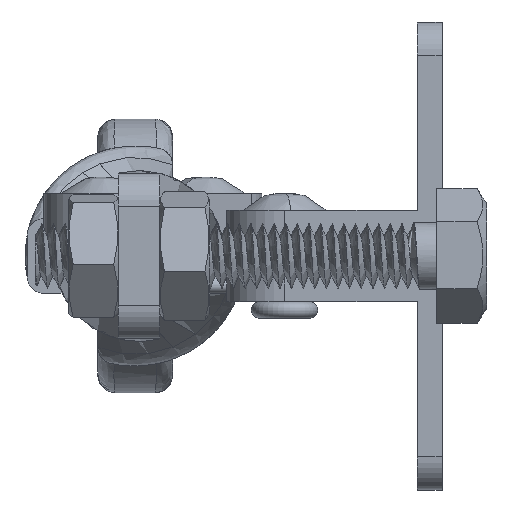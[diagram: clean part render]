
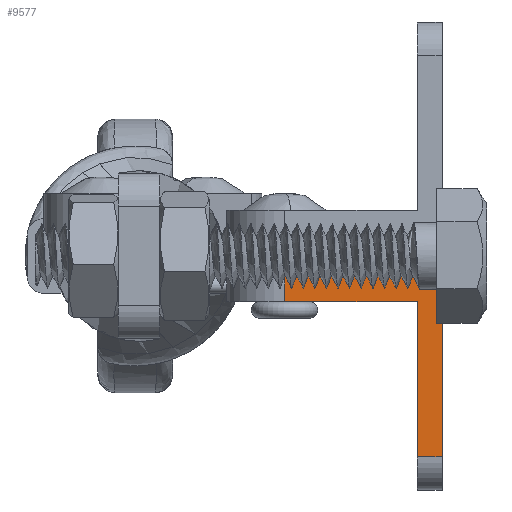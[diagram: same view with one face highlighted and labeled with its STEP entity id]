
A CAD part, left-side view. The second image highlights one B-rep face of the part: STEP entity #9577.
In plain terms, the highlighted planar face has unit normal (-1, 0, 0).
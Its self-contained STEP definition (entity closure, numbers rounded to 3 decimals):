
#327=PLANE('',#10364);
#1313=FACE_OUTER_BOUND('',#1871,.T.);
#1871=EDGE_LOOP('',(#7903,#7904,#7905,#7906,#7907,#7908,#7909));
#2520=LINE('',#31111,#3302);
#2592=LINE('',#32554,#3374);
#2604=LINE('',#32578,#3386);
#2605=LINE('',#32582,#3387);
#2606=LINE('',#32585,#3388);
#2607=LINE('',#32586,#3389);
#3302=VECTOR('',#11537,1000.);
#3374=VECTOR('',#11627,1000.);
#3386=VECTOR('',#11657,1000.);
#3387=VECTOR('',#11660,1000.);
#3388=VECTOR('',#11663,1000.);
#3389=VECTOR('',#11664,1000.);
#3871=CIRCLE('',#10365,1.5);
#4387=VERTEX_POINT('',#31108);
#4388=VERTEX_POINT('',#31110);
#4580=VERTEX_POINT('',#32551);
#4581=VERTEX_POINT('',#32553);
#4585=VERTEX_POINT('',#32580);
#4586=VERTEX_POINT('',#32581);
#4587=VERTEX_POINT('',#32584);
#5576=EDGE_CURVE('',#4388,#4387,#2520,.T.);
#5769=EDGE_CURVE('',#4580,#4581,#2592,.T.);
#5782=EDGE_CURVE('',#4388,#4580,#2604,.T.);
#5783=EDGE_CURVE('',#4585,#4586,#2605,.T.);
#5784=EDGE_CURVE('',#4581,#4586,#3871,.T.);
#5785=EDGE_CURVE('',#4587,#4387,#2606,.T.);
#5786=EDGE_CURVE('',#4585,#4587,#2607,.T.);
#7903=ORIENTED_EDGE('',*,*,#5783,.T.);
#7904=ORIENTED_EDGE('',*,*,#5784,.F.);
#7905=ORIENTED_EDGE('',*,*,#5769,.F.);
#7906=ORIENTED_EDGE('',*,*,#5782,.F.);
#7907=ORIENTED_EDGE('',*,*,#5576,.T.);
#7908=ORIENTED_EDGE('',*,*,#5785,.F.);
#7909=ORIENTED_EDGE('',*,*,#5786,.F.);
#9577=ADVANCED_FACE('',(#1313),#327,.F.);
#10364=AXIS2_PLACEMENT_3D('',#32579,#11658,#11659);
#10365=AXIS2_PLACEMENT_3D('',#32583,#11661,#11662);
#11537=DIRECTION('',(0.,-1.,0.));
#11627=DIRECTION('',(0.,-1.,0.));
#11657=DIRECTION('',(0.,0.,1.));
#11658=DIRECTION('center_axis',(1.,0.,0.));
#11659=DIRECTION('ref_axis',(0.,0.,1.));
#11660=DIRECTION('',(0.,0.,1.));
#11661=DIRECTION('center_axis',(1.,0.,0.));
#11662=DIRECTION('ref_axis',(0.,0.,1.));
#11663=DIRECTION('',(0.,0.,1.));
#11664=DIRECTION('',(0.,1.,0.));
#31108=CARTESIAN_POINT('',(-24.,1.5,-4.));
#31110=CARTESIAN_POINT('',(-24.,9.5,-4.));
#31111=CARTESIAN_POINT('',(-24.,0.,-4.));
#32551=CARTESIAN_POINT('',(-24.,9.5,-2.5));
#32553=CARTESIAN_POINT('',(-24.,1.5,-2.5));
#32554=CARTESIAN_POINT('',(-24.,0.,-2.5));
#32578=CARTESIAN_POINT('',(-24.,9.5,-4.));
#32579=CARTESIAN_POINT('Origin',(-24.,0.,-4.));
#32580=CARTESIAN_POINT('',(-24.,0.,-13.35));
#32581=CARTESIAN_POINT('',(-24.,0.,-4.));
#32582=CARTESIAN_POINT('',(-24.,0.,-4.));
#32583=CARTESIAN_POINT('Origin',(-24.,1.5,-4.));
#32584=CARTESIAN_POINT('',(-24.,1.5,-13.35));
#32585=CARTESIAN_POINT('',(-24.,1.5,-15.35));
#32586=CARTESIAN_POINT('',(-24.,1.5,-13.35));
